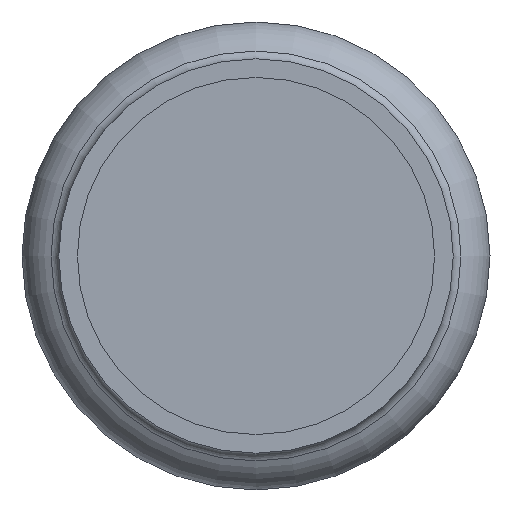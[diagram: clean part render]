
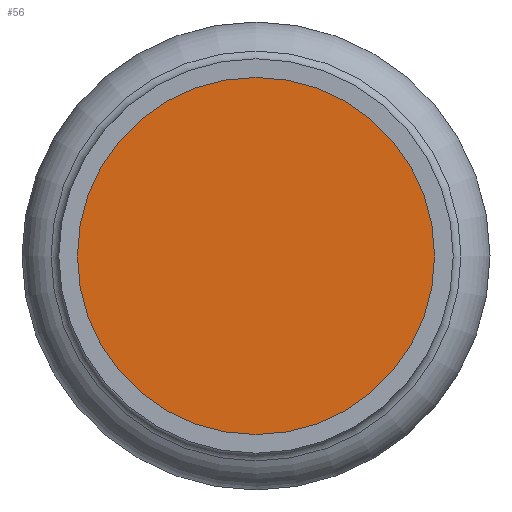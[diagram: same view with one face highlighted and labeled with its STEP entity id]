
A CAD part, front view. The second image highlights one B-rep face of the part: STEP entity #56.
In plain terms, the highlighted planar face has unit normal (0, -1, 0).
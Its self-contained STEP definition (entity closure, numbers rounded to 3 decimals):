
#56=ADVANCED_FACE('',(#99),#101,.T.);
#99=FACE_BOUND('',#100,.T.);
#100=EDGE_LOOP('',(#264));
#101=PLANE('',#102);
#102=AXIS2_PLACEMENT_3D('',#103,#104,#105);
#103=CARTESIAN_POINT('',(0.,7.281,0.));
#104=DIRECTION('',(0.,-1.,0.));
#105=DIRECTION('',(0.,0.,-1.));
#264=ORIENTED_EDGE('',*,*,#301,.T.);
#301=EDGE_CURVE('',#323,#323,#324,.F.);
#323=VERTEX_POINT('',#369);
#324=CIRCLE('',#370,14.15);
#369=CARTESIAN_POINT('',(0.,7.281,14.15));
#370=AXIS2_PLACEMENT_3D('',#371,#372,#373);
#371=CARTESIAN_POINT('',(0.,7.281,0.));
#372=DIRECTION('',(0.,1.,0.));
#373=DIRECTION('',(0.,0.,1.));
